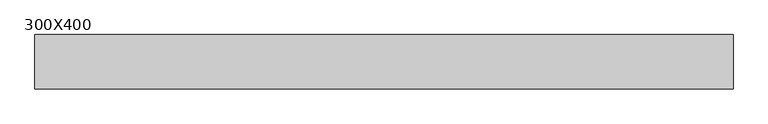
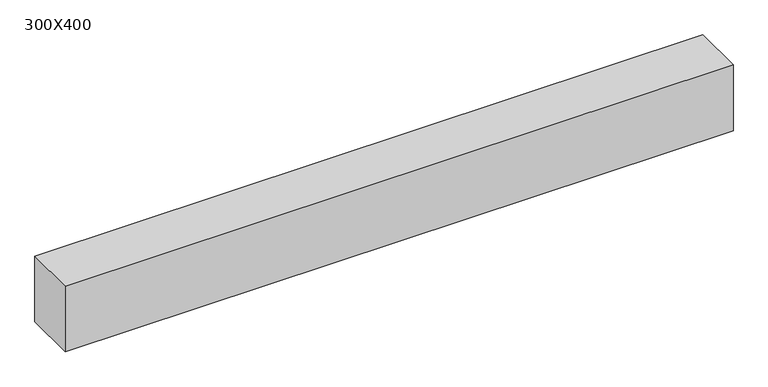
"""IFC4 building model written with IfcOpenShell, lengths in millimetres: beam geometry, 混凝土 - 矩形梁 : 300X400."""

from ifc_helpers import new_model, si_unit, frame, origin, place, context, project, spatial, polyline, outline, extrude, source, transform, mapped, element, save


def beam_300x400_5cb47341(model_context):
    return source(origin(), model_context, "Body", "SweptSolid", [
        extrude(outline(polyline([(1920.0, 150.0), (1920.0, -150.0), (-1920.0, -150.0), (-1920.0, 150.0), (1920.0, 150.0)])), frame((0.0, 0.0, -200.0), z_axis=(0.0, 0.0, 1.0), x_axis=(1.0, 0.0, 0.0)), (0.0, 0.0, 1.0), 400.0),
    ])


if __name__ == "__main__":
    model = new_model("IFC4")
    model_context = context("Model", 3, world=origin())
    ifc_project = project(units=[si_unit("LENGTHUNIT", "METRE", prefix="MILLI")], contexts=[model_context])
    site = spatial("IfcSite", under=ifc_project)
    building = spatial("IfcBuilding", under=site)
    placement = place(None, origin())
    beam_300x400_shape = beam_300x400_5cb47341(model_context)
    element("IfcBeam", 1, ObjectType="混凝土 - 矩形梁 : 300X400", at=placement, inside=building, context=model_context, shape_type="MappedRepresentation", body=[
        mapped(beam_300x400_shape, transform((0.0, 0.0, 0.0), x_axis=(1.0, 0.0, 0.0), y_axis=(0.0, 1.0, 0.0), z_axis=(0.0, 0.0, 1.0))),
    ])
    save(model, "model.ifc")
